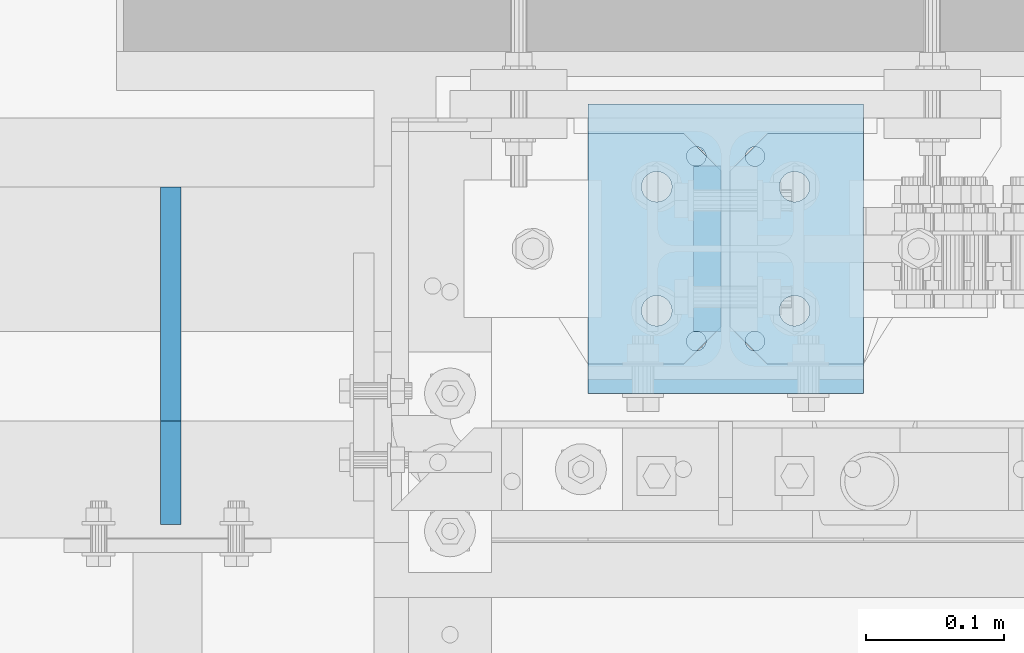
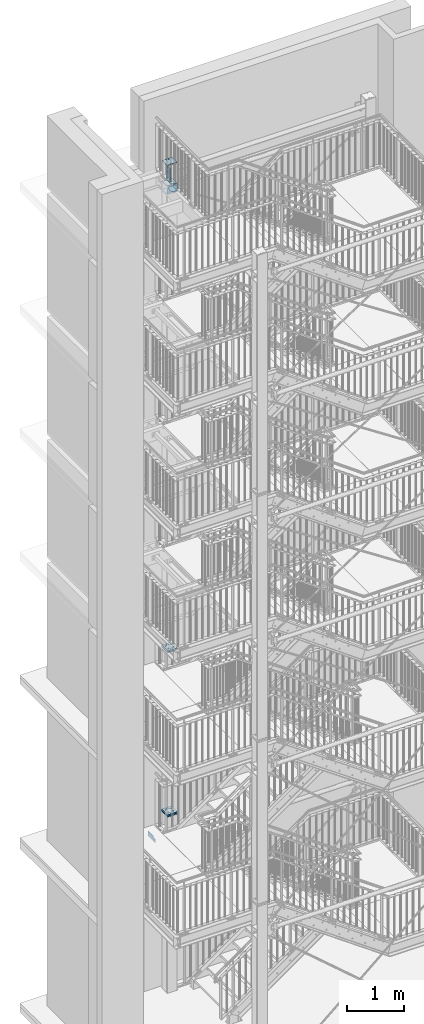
# One storey, part 189 of 825: 12 plates, 63 openings.
"""IFC2X3 building model written with IfcOpenShell, lengths in millimetres."""

from ifc_helpers import new_model, entity, si_unit, converted_unit, point, frame, frame_2d, origin, origin_with_axes, origin_2d_with_axis, place, context, project, spatial, polyline, circle_curve, line_curve, trimmed, segment, composite_curve, circle, outline, extrude, material, layer, layer_set, element, save


model = new_model("IFC2X3")

# Units and contexts
model_context = context("Model", 3, precision=1e-09, world=origin_with_axes())
ifc_project = project(units=[si_unit("LENGTHUNIT", "METRE", prefix="MILLI"), si_unit("AREAUNIT", "SQUARE_METRE"), si_unit("VOLUMEUNIT", "CUBIC_METRE"), converted_unit("PLANEANGLEUNIT", "DEGREE", entity("IfcPlaneAngleMeasure", 0.01745329), si_unit("PLANEANGLEUNIT", "RADIAN"), dimensions=[0, 0, 0, 0, 0, 0, 0])], contexts=[model_context])

# Site, building, storey
site_placement = place(None, origin_with_axes())
site = spatial("IfcSite", under=ifc_project, at=site_placement, Name="Cnopf'sche Kinderklinik", CompositionType="ELEMENT")
building_placement = place(site_placement, origin_with_axes())
building = spatial("IfcBuilding", under=site, at=building_placement, Name="Struktur 1", CompositionType="ELEMENT")
storey_placement = place(building_placement, origin_with_axes())
storey = spatial("IfcBuildingStorey", under=building, at=storey_placement, Name="Default Storey", CompositionType="ELEMENT", Elevation=0.0)

# Plate, opening
ifc_material = material(Name="S235JR")
ifc_layer_1 = layer(ifc_material, 15.0)
ifc_layer_set_1 = layer_set([ifc_layer_1], Name="S235JR")
plate_1_placement = place(None, frame((4461.713402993, 7439.236971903, 3797.0), z_axis=(-1.0, 0.0, 0.0), x_axis=(0.0, -1.0, 0.0)))
plate_1 = element("IfcPlate", 1, at=plate_1_placement, inside=storey, material=ifc_layer_set_1, Name="-", ObjectType="-", context=model_context, shape_type="SweptSolid", body=[
    extrude(outline(polyline([(-122.5, -50.0), (122.5, -50.0), (122.5, 50.0), (-122.5, 50.0), (-122.5, -50.0)])), origin_with_axes(), (0.0, 0.0, 1.0), 15.0),
])
opening_1_placement = place(plate_1_placement, frame((0.0, 0.0, -0.1), z_axis=(0.0, 0.0, 1.0), x_axis=(1.0, 0.0, 0.0)))
element("IfcOpeningElement", 2, at=opening_1_placement, cuts=plate_1, ObjectType="Opening", context=model_context, shape_type="SweptSolid", body=[
    extrude(outline(composite_curve([segment(trimmed(circle_curve(frame_2d((57.499, 29.999), x_axis=(1.0, 0.0)), 10.0), [point((47.499, 29.999))], [point((57.499, 19.999))], True, "CARTESIAN"), True, "CONTINUOUS"), segment(trimmed(line_curve((57.499, 19.999), (1.0, 0.0), 93.063804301), [point((57.499, 19.999))], [point((150.562804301, 19.999))], True, "CARTESIAN"), True, "CONTINUOUS"), segment(trimmed(circle_curve(frame_2d((150.562804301, 29.999), x_axis=(1.0, 0.0)), 10.0), [point((150.562804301, 19.999))], [point((160.562804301, 29.999))], True, "CARTESIAN"), True, "CONTINUOUS"), segment(trimmed(line_curve((160.562804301, 29.999), (0.0, 1.0), 40.184858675), [point((160.562804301, 29.999))], [point((160.562804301, 70.183858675))], True, "CARTESIAN"), True, "CONTINUOUS"), segment(trimmed(circle_curve(frame_2d((150.562804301, 70.183858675), x_axis=(1.0, 0.0)), 10.0), [point((160.562804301, 70.183858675))], [point((150.562804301, 80.183858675))], True, "CARTESIAN"), True, "CONTINUOUS"), segment(trimmed(line_curve((150.562804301, 80.183858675), (-1.0, 0.0), 93.063804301), [point((150.562804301, 80.183858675))], [point((57.499, 80.183858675))], True, "CARTESIAN"), True, "CONTINUOUS"), segment(trimmed(circle_curve(frame_2d((57.499, 70.183858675), x_axis=(1.0, 0.0)), 10.0), [point((57.499, 80.183858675))], [point((47.499, 70.183858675))], True, "CARTESIAN"), True, "CONTINUOUS"), segment(trimmed(line_curve((47.499, 70.183858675), (0.0, -1.0), 40.184858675), [point((47.499, 70.183858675))], [point((47.499, 29.999))], True, "CARTESIAN"), True, "CONTINUOUS")], self_intersect=False)), origin(), (0.0, 0.0, 1.0), 15.2),
])

# Plate, openings
ifc_layer_2 = layer(ifc_material, 25.0)
ifc_layer_set_2 = layer_set([ifc_layer_2], Name="S235JR")
plate_2_placement = place(None, frame((4856.713402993, 7516.736971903, 4150.0), z_axis=(0.0, 0.0, -1.0), x_axis=(0.0, 1.0, 0.0)))
plate_2 = element("IfcPlate", 3, at=plate_2_placement, inside=storey, material=ifc_layer_set_2, Name="Endplate#1", ObjectType="Endplate#1", context=model_context, shape_type="SweptSolid", body=[
    extrude(outline(polyline([(-105.0, -100.0), (105.0, -100.0), (105.0, 100.0), (-105.0, 100.0), (-105.0, -100.0)])), origin_with_axes(), (0.0, 0.0, 1.0), 25.0),
])
opening_2_placement = place(plate_2_placement, frame((67.0, 21.25, -0.5), z_axis=(0.0, 0.0, 1.0), x_axis=(1.0, 0.0, 0.0)))
element("IfcOpeningElement", 4, at=opening_2_placement, cuts=plate_2, ObjectType="Opening", context=model_context, shape_type="SweptSolid", body=[
    extrude(circle(Radius=7.001, at=origin_2d_with_axis()), origin(), (0.0, 0.0, 1.0), 26.0),
])
opening_3_placement = place(plate_2_placement, frame((-67.0, 21.25, -0.5), z_axis=(0.0, 0.0, 1.0), x_axis=(1.0, 0.0, 0.0)))
element("IfcOpeningElement", 5, at=opening_3_placement, cuts=plate_2, ObjectType="Opening", context=model_context, shape_type="SweptSolid", body=[
    extrude(circle(Radius=7.001, at=origin_2d_with_axis()), origin(), (0.0, 0.0, 1.0), 26.0),
])
opening_4_placement = place(plate_2_placement, frame((-67.0, -21.25, -0.5), z_axis=(0.0, 0.0, 1.0), x_axis=(1.0, 0.0, 0.0)))
element("IfcOpeningElement", 6, at=opening_4_placement, cuts=plate_2, ObjectType="Opening", context=model_context, shape_type="SweptSolid", body=[
    extrude(circle(Radius=7.001, at=origin_2d_with_axis()), origin(), (0.0, 0.0, 1.0), 26.0),
])
opening_5_placement = place(plate_2_placement, frame((67.0, -21.25, -0.5), z_axis=(0.0, 0.0, 1.0), x_axis=(1.0, 0.0, 0.0)))
element("IfcOpeningElement", 7, at=opening_5_placement, cuts=plate_2, ObjectType="Opening", context=model_context, shape_type="SweptSolid", body=[
    extrude(circle(Radius=7.001, at=origin_2d_with_axis()), origin(), (0.0, 0.0, 1.0), 26.0),
])
opening_6_placement = place(plate_2_placement, frame((45.0, 61.001, 25.5), z_axis=(0.0, 0.0, 1.0), x_axis=(1.0, 0.0, 0.0)))
element("IfcOpeningElement", 8, at=opening_6_placement, cuts=plate_2, ObjectType="Opening", context=model_context, shape_type="SweptSolid", body=[
    extrude(circle(Radius=11.001, at=frame_2d((0.0, -11.001), x_axis=(1.0, 0.0))), origin(), (0.0, 0.0, -1.0), 26.0),
])
opening_7_placement = place(plate_2_placement, frame((-45.0, 61.001, 25.5), z_axis=(0.0, 0.0, 1.0), x_axis=(1.0, 0.0, 0.0)))
element("IfcOpeningElement", 9, at=opening_7_placement, cuts=plate_2, ObjectType="Opening", context=model_context, shape_type="SweptSolid", body=[
    extrude(circle(Radius=11.001, at=frame_2d((0.0, -11.001), x_axis=(1.0, 0.0))), origin(), (0.0, 0.0, -1.0), 26.0),
])
opening_8_placement = place(plate_2_placement, frame((45.0, -38.999, 25.5), z_axis=(0.0, 0.0, 1.0), x_axis=(1.0, 0.0, 0.0)))
element("IfcOpeningElement", 10, at=opening_8_placement, cuts=plate_2, ObjectType="Opening", context=model_context, shape_type="SweptSolid", body=[
    extrude(circle(Radius=11.001, at=frame_2d((0.0, -11.001), x_axis=(1.0, 0.0))), origin(), (0.0, 0.0, -1.0), 26.0),
])
opening_9_placement = place(plate_2_placement, frame((-45.0, -38.999, 25.5), z_axis=(0.0, 0.0, 1.0), x_axis=(1.0, 0.0, 0.0)))
element("IfcOpeningElement", 11, at=opening_9_placement, cuts=plate_2, ObjectType="Opening", context=model_context, shape_type="SweptSolid", body=[
    extrude(circle(Radius=11.001, at=frame_2d((0.0, -11.001), x_axis=(1.0, 0.0))), origin(), (0.0, 0.0, -1.0), 26.0),
])

plate_3_placement = place(None, frame((4856.713402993, 7516.736971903, 4175.0), z_axis=(0.0, 0.0, -1.0), x_axis=(0.0, 1.0, 0.0)))
plate_3 = element("IfcPlate", 12, at=plate_3_placement, inside=storey, material=ifc_layer_set_2, Name="Endplate#2", ObjectType="Endplate#2", context=model_context, shape_type="SweptSolid", body=[
    extrude(outline(polyline([(-105.0, -100.0), (105.0, -100.0), (105.0, 100.0), (-105.0, 100.0), (-105.0, -100.0)])), origin_with_axes(), (0.0, 0.0, 1.0), 25.0),
])
opening_10_placement = place(plate_3_placement, frame((67.0, 21.25, 25.5), z_axis=(0.0, 0.0, -1.0), x_axis=(-1.0, 0.0, 0.0)))
element("IfcOpeningElement", 13, at=opening_10_placement, cuts=plate_3, ObjectType="Opening", context=model_context, shape_type="SweptSolid", body=[
    extrude(circle(Radius=7.001, at=origin_2d_with_axis()), origin(), (0.0, 0.0, 1.0), 26.0),
])
opening_11_placement = place(plate_3_placement, frame((-67.0, 21.25, 25.5), z_axis=(0.0, 0.0, -1.0), x_axis=(-1.0, 0.0, 0.0)))
element("IfcOpeningElement", 14, at=opening_11_placement, cuts=plate_3, ObjectType="Opening", context=model_context, shape_type="SweptSolid", body=[
    extrude(circle(Radius=7.001, at=origin_2d_with_axis()), origin(), (0.0, 0.0, 1.0), 26.0),
])
opening_12_placement = place(plate_3_placement, frame((-67.0, -21.25, 25.5), z_axis=(0.0, 0.0, -1.0), x_axis=(-1.0, 0.0, 0.0)))
element("IfcOpeningElement", 15, at=opening_12_placement, cuts=plate_3, ObjectType="Opening", context=model_context, shape_type="SweptSolid", body=[
    extrude(circle(Radius=7.001, at=origin_2d_with_axis()), origin(), (0.0, 0.0, 1.0), 26.0),
])
opening_13_placement = place(plate_3_placement, frame((67.0, -21.25, 25.5), z_axis=(0.0, 0.0, -1.0), x_axis=(-1.0, 0.0, 0.0)))
element("IfcOpeningElement", 16, at=opening_13_placement, cuts=plate_3, ObjectType="Opening", context=model_context, shape_type="SweptSolid", body=[
    extrude(circle(Radius=7.001, at=origin_2d_with_axis()), origin(), (0.0, 0.0, 1.0), 26.0),
])
opening_14_placement = place(plate_3_placement, frame((45.0, -38.999, 25.5), z_axis=(0.0, 0.0, 1.0), x_axis=(1.0, 0.0, 0.0)))
element("IfcOpeningElement", 17, at=opening_14_placement, cuts=plate_3, ObjectType="Opening", context=model_context, shape_type="SweptSolid", body=[
    extrude(circle(Radius=11.001, at=frame_2d((0.0, -11.001), x_axis=(1.0, 0.0))), origin(), (0.0, 0.0, -1.0), 26.0),
])
opening_15_placement = place(plate_3_placement, frame((-45.0, -38.999, 25.5), z_axis=(0.0, 0.0, 1.0), x_axis=(1.0, 0.0, 0.0)))
element("IfcOpeningElement", 18, at=opening_15_placement, cuts=plate_3, ObjectType="Opening", context=model_context, shape_type="SweptSolid", body=[
    extrude(circle(Radius=11.001, at=frame_2d((0.0, -11.001), x_axis=(1.0, 0.0))), origin(), (0.0, 0.0, -1.0), 26.0),
])
opening_16_placement = place(plate_3_placement, frame((45.0, 61.001, 25.5), z_axis=(0.0, 0.0, 1.0), x_axis=(1.0, 0.0, 0.0)))
element("IfcOpeningElement", 19, at=opening_16_placement, cuts=plate_3, ObjectType="Opening", context=model_context, shape_type="SweptSolid", body=[
    extrude(circle(Radius=11.001, at=frame_2d((0.0, -11.001), x_axis=(1.0, 0.0))), origin(), (0.0, 0.0, -1.0), 26.0),
])
opening_17_placement = place(plate_3_placement, frame((-45.0, 61.001, 25.5), z_axis=(0.0, 0.0, 1.0), x_axis=(1.0, 0.0, 0.0)))
element("IfcOpeningElement", 20, at=opening_17_placement, cuts=plate_3, ObjectType="Opening", context=model_context, shape_type="SweptSolid", body=[
    extrude(circle(Radius=11.001, at=frame_2d((0.0, -11.001), x_axis=(1.0, 0.0))), origin(), (0.0, 0.0, -1.0), 26.0),
])

plate_4_placement = place(None, frame((4856.713402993, 7516.736971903, 7650.0), z_axis=(0.0, 0.0, -1.0), x_axis=(0.0, 1.0, 0.0)))
plate_4 = element("IfcPlate", 21, at=plate_4_placement, inside=storey, material=ifc_layer_set_2, Name="Endplate#1", ObjectType="Endplate#1", context=model_context, shape_type="SweptSolid", body=[
    extrude(outline(polyline([(-105.0, -100.0), (105.0, -100.0), (105.0, 100.0), (-105.0, 100.0), (-105.0, -100.0)])), origin_with_axes(), (0.0, 0.0, 1.0), 25.0),
])
opening_18_placement = place(plate_4_placement, frame((67.0, 21.25, -0.5), z_axis=(0.0, 0.0, 1.0), x_axis=(1.0, 0.0, 0.0)))
element("IfcOpeningElement", 22, at=opening_18_placement, cuts=plate_4, ObjectType="Opening", context=model_context, shape_type="SweptSolid", body=[
    extrude(circle(Radius=7.001, at=origin_2d_with_axis()), origin(), (0.0, 0.0, 1.0), 26.0),
])
opening_19_placement = place(plate_4_placement, frame((-67.0, 21.25, -0.5), z_axis=(0.0, 0.0, 1.0), x_axis=(1.0, 0.0, 0.0)))
element("IfcOpeningElement", 23, at=opening_19_placement, cuts=plate_4, ObjectType="Opening", context=model_context, shape_type="SweptSolid", body=[
    extrude(circle(Radius=7.001, at=origin_2d_with_axis()), origin(), (0.0, 0.0, 1.0), 26.0),
])
opening_20_placement = place(plate_4_placement, frame((-67.0, -21.25, -0.5), z_axis=(0.0, 0.0, 1.0), x_axis=(1.0, 0.0, 0.0)))
element("IfcOpeningElement", 24, at=opening_20_placement, cuts=plate_4, ObjectType="Opening", context=model_context, shape_type="SweptSolid", body=[
    extrude(circle(Radius=7.001, at=origin_2d_with_axis()), origin(), (0.0, 0.0, 1.0), 26.0),
])
opening_21_placement = place(plate_4_placement, frame((67.0, -21.25, -0.5), z_axis=(0.0, 0.0, 1.0), x_axis=(1.0, 0.0, 0.0)))
element("IfcOpeningElement", 25, at=opening_21_placement, cuts=plate_4, ObjectType="Opening", context=model_context, shape_type="SweptSolid", body=[
    extrude(circle(Radius=7.001, at=origin_2d_with_axis()), origin(), (0.0, 0.0, 1.0), 26.0),
])
opening_22_placement = place(plate_4_placement, frame((45.0, -38.999, 25.5), z_axis=(0.0, 0.0, 1.0), x_axis=(1.0, 0.0, 0.0)))
element("IfcOpeningElement", 26, at=opening_22_placement, cuts=plate_4, ObjectType="Opening", context=model_context, shape_type="SweptSolid", body=[
    extrude(circle(Radius=11.001, at=frame_2d((0.0, -11.001), x_axis=(1.0, 0.0))), origin(), (0.0, 0.0, -1.0), 26.0),
])
opening_23_placement = place(plate_4_placement, frame((-45.0, -38.999, 25.5), z_axis=(0.0, 0.0, 1.0), x_axis=(1.0, 0.0, 0.0)))
element("IfcOpeningElement", 27, at=opening_23_placement, cuts=plate_4, ObjectType="Opening", context=model_context, shape_type="SweptSolid", body=[
    extrude(circle(Radius=11.001, at=frame_2d((0.0, -11.001), x_axis=(1.0, 0.0))), origin(), (0.0, 0.0, -1.0), 26.0),
])
opening_24_placement = place(plate_4_placement, frame((45.0, 61.001, 25.5), z_axis=(0.0, 0.0, 1.0), x_axis=(1.0, 0.0, 0.0)))
element("IfcOpeningElement", 28, at=opening_24_placement, cuts=plate_4, ObjectType="Opening", context=model_context, shape_type="SweptSolid", body=[
    extrude(circle(Radius=11.001, at=frame_2d((0.0, -11.001), x_axis=(1.0, 0.0))), origin(), (0.0, 0.0, -1.0), 26.0),
])
opening_25_placement = place(plate_4_placement, frame((-45.0, 61.001, 25.5), z_axis=(0.0, 0.0, 1.0), x_axis=(1.0, 0.0, 0.0)))
element("IfcOpeningElement", 29, at=opening_25_placement, cuts=plate_4, ObjectType="Opening", context=model_context, shape_type="SweptSolid", body=[
    extrude(circle(Radius=11.001, at=frame_2d((0.0, -11.001), x_axis=(1.0, 0.0))), origin(), (0.0, 0.0, -1.0), 26.0),
])

plate_5_placement = place(None, frame((4856.713402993, 7516.736971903, 7675.0), z_axis=(0.0, 0.0, -1.0), x_axis=(0.0, 1.0, 0.0)))
plate_5 = element("IfcPlate", 30, at=plate_5_placement, inside=storey, material=ifc_layer_set_2, Name="Endplate#2", ObjectType="Endplate#2", context=model_context, shape_type="SweptSolid", body=[
    extrude(outline(polyline([(-105.0, -100.0), (105.0, -100.0), (105.0, 100.0), (-105.0, 100.0), (-105.0, -100.0)])), origin_with_axes(), (0.0, 0.0, 1.0), 25.0),
])
opening_26_placement = place(plate_5_placement, frame((67.0, 21.25, 25.5), z_axis=(0.0, 0.0, -1.0), x_axis=(-1.0, 0.0, 0.0)))
element("IfcOpeningElement", 31, at=opening_26_placement, cuts=plate_5, ObjectType="Opening", context=model_context, shape_type="SweptSolid", body=[
    extrude(circle(Radius=7.001, at=origin_2d_with_axis()), origin(), (0.0, 0.0, 1.0), 26.0),
])
opening_27_placement = place(plate_5_placement, frame((-67.0, 21.25, 25.5), z_axis=(0.0, 0.0, -1.0), x_axis=(-1.0, 0.0, 0.0)))
element("IfcOpeningElement", 32, at=opening_27_placement, cuts=plate_5, ObjectType="Opening", context=model_context, shape_type="SweptSolid", body=[
    extrude(circle(Radius=7.001, at=origin_2d_with_axis()), origin(), (0.0, 0.0, 1.0), 26.0),
])
opening_28_placement = place(plate_5_placement, frame((-67.0, -21.25, 25.5), z_axis=(0.0, 0.0, -1.0), x_axis=(-1.0, 0.0, 0.0)))
element("IfcOpeningElement", 33, at=opening_28_placement, cuts=plate_5, ObjectType="Opening", context=model_context, shape_type="SweptSolid", body=[
    extrude(circle(Radius=7.001, at=origin_2d_with_axis()), origin(), (0.0, 0.0, 1.0), 26.0),
])
opening_29_placement = place(plate_5_placement, frame((67.0, -21.25, 25.5), z_axis=(0.0, 0.0, -1.0), x_axis=(-1.0, 0.0, 0.0)))
element("IfcOpeningElement", 34, at=opening_29_placement, cuts=plate_5, ObjectType="Opening", context=model_context, shape_type="SweptSolid", body=[
    extrude(circle(Radius=7.001, at=origin_2d_with_axis()), origin(), (0.0, 0.0, 1.0), 26.0),
])
opening_30_placement = place(plate_5_placement, frame((45.0, 61.001, 25.5), z_axis=(0.0, 0.0, 1.0), x_axis=(1.0, 0.0, 0.0)))
element("IfcOpeningElement", 35, at=opening_30_placement, cuts=plate_5, ObjectType="Opening", context=model_context, shape_type="SweptSolid", body=[
    extrude(circle(Radius=11.001, at=frame_2d((0.0, -11.001), x_axis=(1.0, 0.0))), origin(), (0.0, 0.0, -1.0), 26.0),
])
opening_31_placement = place(plate_5_placement, frame((-45.0, 61.001, 25.5), z_axis=(0.0, 0.0, 1.0), x_axis=(1.0, 0.0, 0.0)))
element("IfcOpeningElement", 36, at=opening_31_placement, cuts=plate_5, ObjectType="Opening", context=model_context, shape_type="SweptSolid", body=[
    extrude(circle(Radius=11.001, at=frame_2d((0.0, -11.001), x_axis=(1.0, 0.0))), origin(), (0.0, 0.0, -1.0), 26.0),
])
opening_32_placement = place(plate_5_placement, frame((45.0, -38.999, 25.5), z_axis=(0.0, 0.0, 1.0), x_axis=(1.0, 0.0, 0.0)))
element("IfcOpeningElement", 37, at=opening_32_placement, cuts=plate_5, ObjectType="Opening", context=model_context, shape_type="SweptSolid", body=[
    extrude(circle(Radius=11.001, at=frame_2d((0.0, -11.001), x_axis=(1.0, 0.0))), origin(), (0.0, 0.0, -1.0), 26.0),
])
opening_33_placement = place(plate_5_placement, frame((-45.0, -38.999, 25.5), z_axis=(0.0, 0.0, 1.0), x_axis=(1.0, 0.0, 0.0)))
element("IfcOpeningElement", 38, at=opening_33_placement, cuts=plate_5, ObjectType="Opening", context=model_context, shape_type="SweptSolid", body=[
    extrude(circle(Radius=11.001, at=frame_2d((0.0, -11.001), x_axis=(1.0, 0.0))), origin(), (0.0, 0.0, -1.0), 26.0),
])

ifc_layer_3 = layer(ifc_material, 10.0)
ifc_layer_set_3 = layer_set([ifc_layer_3], Name="S235JR")
plate_6_placement = place(None, frame((4856.713402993, 7411.736971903, 17498.999999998), z_axis=(0.0, 1.0, 0.0), x_axis=(0.0, 0.0, -1.0)))
plate_6 = element("IfcPlate", 39, at=plate_6_placement, inside=storey, material=ifc_layer_set_3, Name="Endplate", ObjectType="Endplate", context=model_context, shape_type="SweptSolid", body=[
    extrude(outline(polyline([(-90.0, -100.0), (90.0, -100.0), (90.0, 100.0), (-90.0, 100.0), (-90.0, -100.0)])), origin_with_axes(), (0.0, 0.0, 1.0), 10.0),
])
opening_34_placement = place(plate_6_placement, frame((-67.0, 21.25, 10.5), z_axis=(0.0, 0.0, -1.0), x_axis=(-1.0, 0.0, 0.0)))
element("IfcOpeningElement", 40, at=opening_34_placement, cuts=plate_6, ObjectType="Opening", context=model_context, shape_type="SweptSolid", body=[
    extrude(circle(Radius=6.001, at=origin_2d_with_axis()), origin(), (0.0, 0.0, 1.0), 11.0),
])
opening_35_placement = place(plate_6_placement, frame((67.0, 21.25, 10.5), z_axis=(0.0, 0.0, -1.0), x_axis=(-1.0, 0.0, 0.0)))
element("IfcOpeningElement", 41, at=opening_35_placement, cuts=plate_6, ObjectType="Opening", context=model_context, shape_type="SweptSolid", body=[
    extrude(circle(Radius=6.001, at=origin_2d_with_axis()), origin(), (0.0, 0.0, 1.0), 11.0),
])
opening_36_placement = place(plate_6_placement, frame((67.0, -21.25, 10.5), z_axis=(0.0, 0.0, -1.0), x_axis=(-1.0, 0.0, 0.0)))
element("IfcOpeningElement", 42, at=opening_36_placement, cuts=plate_6, ObjectType="Opening", context=model_context, shape_type="SweptSolid", body=[
    extrude(circle(Radius=6.001, at=origin_2d_with_axis()), origin(), (0.0, 0.0, 1.0), 11.0),
])
opening_37_placement = place(plate_6_placement, frame((-67.0, -21.25, 10.5), z_axis=(0.0, 0.0, -1.0), x_axis=(-1.0, 0.0, 0.0)))
element("IfcOpeningElement", 43, at=opening_37_placement, cuts=plate_6, ObjectType="Opening", context=model_context, shape_type="SweptSolid", body=[
    extrude(circle(Radius=6.001, at=origin_2d_with_axis()), origin(), (0.0, 0.0, 1.0), 11.0),
])
opening_38_placement = place(plate_6_placement, frame((-45.0, -60.0, 10.5), z_axis=(0.0, 0.0, -1.0), x_axis=(0.0, -1.0, 0.0)))
element("IfcOpeningElement", 44, at=opening_38_placement, cuts=plate_6, ObjectType="Opening", context=model_context, shape_type="SweptSolid", body=[
    extrude(circle(Radius=9.001, at=origin_2d_with_axis()), origin(), (0.0, 0.0, 1.0), 11.0),
])
opening_39_placement = place(plate_6_placement, frame((45.0, 60.0, 10.5), z_axis=(0.0, 0.0, -1.0), x_axis=(0.0, 1.0, 0.0)))
element("IfcOpeningElement", 45, at=opening_39_placement, cuts=plate_6, ObjectType="Opening", context=model_context, shape_type="SweptSolid", body=[
    extrude(circle(Radius=9.001, at=origin_2d_with_axis()), origin(), (0.0, 0.0, 1.0), 11.0),
])
opening_40_placement = place(plate_6_placement, frame((45.0, -60.0, 10.5), z_axis=(0.0, 0.0, -1.0), x_axis=(0.0, -1.0, 0.0)))
element("IfcOpeningElement", 46, at=opening_40_placement, cuts=plate_6, ObjectType="Opening", context=model_context, shape_type="SweptSolid", body=[
    extrude(circle(Radius=9.001, at=origin_2d_with_axis()), origin(), (0.0, 0.0, 1.0), 11.0),
])
opening_41_placement = place(plate_6_placement, frame((-45.0, 60.0, 10.5), z_axis=(0.0, 0.0, -1.0), x_axis=(0.0, 1.0, 0.0)))
element("IfcOpeningElement", 47, at=opening_41_placement, cuts=plate_6, ObjectType="Opening", context=model_context, shape_type="SweptSolid", body=[
    extrude(circle(Radius=9.001, at=origin_2d_with_axis()), origin(), (0.0, 0.0, 1.0), 11.0),
])

plate_7_placement = place(None, frame((4859.963402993, 7433.236971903, 17573.999999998), z_axis=(0.0, 0.0, 1.0), x_axis=(1.0, 0.0, 0.0)))
plate_7 = element("IfcPlate", 48, at=plate_7_placement, inside=storey, material=ifc_layer_set_3, Name="Stiffener#1", ObjectType="Stiffener#1", context=model_context, shape_type="SweptSolid", body=[
    extrude(outline(polyline([(0.0, 0.0), (96.75, 0.0), (96.75, 167.0), (0.0, 167.0), (0.0, 0.0)])), origin_with_axes(), (0.0, 0.0, 1.0), 10.0),
])
opening_42_placement = place(plate_7_placement, frame((0.0, 0.0, -0.01), z_axis=(0.0, 0.0, 1.0), x_axis=(1.0, 0.0, 0.0)))
element("IfcOpeningElement", 49, at=opening_42_placement, cuts=plate_7, ObjectType="Opening", context=model_context, shape_type="SweptSolid", body=[
    extrude(outline(polyline([(0.0, 167.0), (0.0, 140.0), (27.0, 167.0), (0.0, 167.0)])), origin(), (0.0, 0.0, 1.0), 10.02),
])
opening_43_placement = place(plate_7_placement, frame((0.0, 0.0, -0.01), z_axis=(0.0, 0.0, 1.0), x_axis=(1.0, 0.0, 0.0)))
element("IfcOpeningElement", 50, at=opening_43_placement, cuts=plate_7, ObjectType="Opening", context=model_context, shape_type="SweptSolid", body=[
    extrude(outline(polyline([(0.0, 0.0), (27.0, 0.0), (0.0, 27.0), (0.0, 0.0)])), origin(), (0.0, 0.0, 1.0), 10.02),
])

plate_8_placement = place(None, frame((4756.713402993, 7433.236971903, 17573.999999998), z_axis=(0.0, 0.0, 1.0), x_axis=(1.0, 0.0, 0.0)))
plate_8 = element("IfcPlate", 51, at=plate_8_placement, inside=storey, material=ifc_layer_set_3, Name="Stiffener#2", ObjectType="Stiffener#2", context=model_context, shape_type="SweptSolid", body=[
    extrude(outline(polyline([(0.0, 0.0), (96.75, 0.0), (96.75, 167.0), (0.0, 167.0), (0.0, 0.0)])), origin_with_axes(), (0.0, 0.0, 1.0), 10.0),
])
opening_44_placement = place(plate_8_placement, frame((0.0, 0.0, -0.01), z_axis=(0.0, 0.0, 1.0), x_axis=(1.0, 0.0, 0.0)))
element("IfcOpeningElement", 52, at=opening_44_placement, cuts=plate_8, ObjectType="Opening", context=model_context, shape_type="SweptSolid", body=[
    extrude(outline(polyline([(96.75, 167.0), (69.75, 167.0), (96.75, 140.0), (96.75, 167.0)])), origin(), (0.0, 0.0, 1.0), 10.02),
])
opening_45_placement = place(plate_8_placement, frame((0.0, 0.0, -0.01), z_axis=(0.0, 0.0, 1.0), x_axis=(1.0, 0.0, 0.0)))
element("IfcOpeningElement", 53, at=opening_45_placement, cuts=plate_8, ObjectType="Opening", context=model_context, shape_type="SweptSolid", body=[
    extrude(outline(polyline([(96.75, 0.0), (96.75, 27.0), (69.75, 0.0), (96.75, 0.0)])), origin(), (0.0, 0.0, 1.0), 10.02),
])

plate_9_placement = place(None, frame((4956.713402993, 7433.236971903, 17413.999999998), z_axis=(0.0, 0.0, -1.0), x_axis=(-1.0, 0.0, 0.0)))
plate_9 = element("IfcPlate", 54, at=plate_9_placement, inside=storey, material=ifc_layer_set_3, Name="Stiffener#3", ObjectType="Stiffener#3", context=model_context, shape_type="SweptSolid", body=[
    extrude(outline(polyline([(0.0, 0.0), (96.75, 0.0), (96.75, 167.0), (0.0, 167.0), (0.0, 0.0)])), origin_with_axes(), (0.0, 0.0, 1.0), 10.0),
])
opening_46_placement = place(plate_9_placement, frame((0.0, 0.0, -0.01), z_axis=(0.0, 0.0, 1.0), x_axis=(1.0, 0.0, 0.0)))
element("IfcOpeningElement", 55, at=opening_46_placement, cuts=plate_9, ObjectType="Opening", context=model_context, shape_type="SweptSolid", body=[
    extrude(outline(polyline([(96.75, 167.0), (69.75, 167.0), (96.75, 140.0), (96.75, 167.0)])), origin(), (0.0, 0.0, 1.0), 10.02),
])
opening_47_placement = place(plate_9_placement, frame((0.0, 0.0, -0.01), z_axis=(0.0, 0.0, 1.0), x_axis=(1.0, 0.0, 0.0)))
element("IfcOpeningElement", 56, at=opening_47_placement, cuts=plate_9, ObjectType="Opening", context=model_context, shape_type="SweptSolid", body=[
    extrude(outline(polyline([(96.75, 0.0), (96.75, 27.0), (69.75, 0.0), (96.75, 0.0)])), origin(), (0.0, 0.0, 1.0), 10.02),
])

plate_10_placement = place(None, frame((4853.463402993, 7433.236971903, 17413.999999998), z_axis=(0.0, 0.0, -1.0), x_axis=(-1.0, 0.0, 0.0)))
plate_10 = element("IfcPlate", 57, at=plate_10_placement, inside=storey, material=ifc_layer_set_3, Name="Stiffener#4", ObjectType="Stiffener#4", context=model_context, shape_type="SweptSolid", body=[
    extrude(outline(polyline([(0.0, 0.0), (96.75, 0.0), (96.75, 167.0), (0.0, 167.0), (0.0, 0.0)])), origin_with_axes(), (0.0, 0.0, 1.0), 10.0),
])
opening_48_placement = place(plate_10_placement, frame((0.0, 0.0, -0.01), z_axis=(0.0, 0.0, 1.0), x_axis=(1.0, 0.0, 0.0)))
element("IfcOpeningElement", 58, at=opening_48_placement, cuts=plate_10, ObjectType="Opening", context=model_context, shape_type="SweptSolid", body=[
    extrude(outline(polyline([(0.0, 167.0), (0.0, 140.0), (27.0, 167.0), (0.0, 167.0)])), origin(), (0.0, 0.0, 1.0), 10.02),
])
opening_49_placement = place(plate_10_placement, frame((0.0, 0.0, -0.01), z_axis=(0.0, 0.0, 1.0), x_axis=(1.0, 0.0, 0.0)))
element("IfcOpeningElement", 59, at=opening_49_placement, cuts=plate_10, ObjectType="Opening", context=model_context, shape_type="SweptSolid", body=[
    extrude(outline(polyline([(0.0, 0.0), (27.0, 0.0), (0.0, 27.0), (0.0, 0.0)])), origin(), (0.0, 0.0, 1.0), 10.02),
])

ifc_layer_4 = layer(ifc_material, 20.0)
ifc_layer_set_4 = layer_set([ifc_layer_4], Name="S235JR")
plate_11_placement = place(None, frame((4833.463402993, 7516.736971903, 17753.999999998), z_axis=(1.0, 0.0, 0.0), x_axis=(0.0, 0.0, -1.0)))
plate_11 = element("IfcPlate", 60, at=plate_11_placement, inside=storey, material=ifc_layer_set_4, Name="Endplate", ObjectType="Endplate", context=model_context, shape_type="SweptSolid", body=[
    extrude(outline(polyline([(-150.0, -60.0), (150.0, -60.0), (150.0, 60.0), (-150.0, 60.0), (-150.0, -60.0)])), origin_with_axes(), (0.0, 0.0, 1.0), 20.0),
])
opening_50_placement = place(plate_11_placement, frame((-55.2, 18.1, 20.5), z_axis=(0.0, 0.0, -1.0), x_axis=(-1.0, 0.0, 0.0)))
element("IfcOpeningElement", 61, at=opening_50_placement, cuts=plate_11, ObjectType="Opening", context=model_context, shape_type="SweptSolid", body=[
    extrude(circle(Radius=6.001, at=origin_2d_with_axis()), origin(), (0.0, 0.0, 1.0), 21.0),
])
opening_51_placement = place(plate_11_placement, frame((135.2, 18.1, 20.5), z_axis=(0.0, 0.0, -1.0), x_axis=(-1.0, 0.0, 0.0)))
element("IfcOpeningElement", 62, at=opening_51_placement, cuts=plate_11, ObjectType="Opening", context=model_context, shape_type="SweptSolid", body=[
    extrude(circle(Radius=6.001, at=origin_2d_with_axis()), origin(), (0.0, 0.0, 1.0), 21.0),
])
opening_52_placement = place(plate_11_placement, frame((135.2, -18.1, 20.5), z_axis=(0.0, 0.0, -1.0), x_axis=(-1.0, 0.0, 0.0)))
element("IfcOpeningElement", 63, at=opening_52_placement, cuts=plate_11, ObjectType="Opening", context=model_context, shape_type="SweptSolid", body=[
    extrude(circle(Radius=6.001, at=origin_2d_with_axis()), origin(), (0.0, 0.0, 1.0), 21.0),
])
opening_53_placement = place(plate_11_placement, frame((-55.2, -18.1, 20.5), z_axis=(0.0, 0.0, -1.0), x_axis=(-1.0, 0.0, 0.0)))
element("IfcOpeningElement", 64, at=opening_53_placement, cuts=plate_11, ObjectType="Opening", context=model_context, shape_type="SweptSolid", body=[
    extrude(circle(Radius=6.001, at=origin_2d_with_axis()), origin(), (0.0, 0.0, 1.0), 21.0),
])
opening_54_placement = place(plate_11_placement, frame((100.0, -35.0, 20.5), z_axis=(0.0, 0.0, -1.0), x_axis=(0.0, -1.0, 0.0)))
element("IfcOpeningElement", 65, at=opening_54_placement, cuts=plate_11, ObjectType="Opening", context=model_context, shape_type="SweptSolid", body=[
    extrude(circle(Radius=9.001, at=origin_2d_with_axis()), origin(), (0.0, 0.0, 1.0), 21.0),
])
opening_55_placement = place(plate_11_placement, frame((-120.0, -35.0, 20.5), z_axis=(0.0, 0.0, -1.0), x_axis=(0.0, -1.0, 0.0)))
element("IfcOpeningElement", 66, at=opening_55_placement, cuts=plate_11, ObjectType="Opening", context=model_context, shape_type="SweptSolid", body=[
    extrude(circle(Radius=9.001, at=origin_2d_with_axis()), origin(), (0.0, 0.0, 1.0), 21.0),
])
opening_56_placement = place(plate_11_placement, frame((-20.0, 35.0, 20.5), z_axis=(0.0, 0.0, -1.0), x_axis=(0.0, 1.0, 0.0)))
element("IfcOpeningElement", 67, at=opening_56_placement, cuts=plate_11, ObjectType="Opening", context=model_context, shape_type="SweptSolid", body=[
    extrude(circle(Radius=9.001, at=origin_2d_with_axis()), origin(), (0.0, 0.0, 1.0), 21.0),
])
opening_57_placement = place(plate_11_placement, frame((100.0, 35.0, 20.5), z_axis=(0.0, 0.0, -1.0), x_axis=(0.0, 1.0, 0.0)))
element("IfcOpeningElement", 68, at=opening_57_placement, cuts=plate_11, ObjectType="Opening", context=model_context, shape_type="SweptSolid", body=[
    extrude(circle(Radius=9.001, at=origin_2d_with_axis()), origin(), (0.0, 0.0, 1.0), 21.0),
])
opening_58_placement = place(plate_11_placement, frame((-120.0, 35.0, 20.5), z_axis=(0.0, 0.0, -1.0), x_axis=(0.0, 1.0, 0.0)))
element("IfcOpeningElement", 69, at=opening_58_placement, cuts=plate_11, ObjectType="Opening", context=model_context, shape_type="SweptSolid", body=[
    extrude(circle(Radius=9.001, at=origin_2d_with_axis()), origin(), (0.0, 0.0, 1.0), 21.0),
])
opening_59_placement = place(plate_11_placement, frame((-20.0, -35.0, 20.5), z_axis=(0.0, 0.0, -1.0), x_axis=(0.0, -1.0, 0.0)))
element("IfcOpeningElement", 70, at=opening_59_placement, cuts=plate_11, ObjectType="Opening", context=model_context, shape_type="SweptSolid", body=[
    extrude(circle(Radius=9.001, at=origin_2d_with_axis()), origin(), (0.0, 0.0, 1.0), 21.0),
])

plate_12_placement = place(None, frame((4856.713402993, 7516.736971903, 18013.999999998), z_axis=(0.0, 0.0, 1.0), x_axis=(1.0, 0.0, 0.0)))
plate_12 = element("IfcPlate", 71, at=plate_12_placement, inside=storey, material=ifc_layer_set_3, Name="-", ObjectType="-", context=model_context, shape_type="SweptSolid", body=[
    extrude(outline(polyline([(-100.0, -90.0), (100.0, -90.0), (100.0, 90.0), (-100.0, 90.0), (-100.0, -90.0)])), origin_with_axes(), (0.0, 0.0, 1.0), 10.0),
])
opening_60_placement = place(plate_12_placement, frame((21.25, 67.0, 10.5), z_axis=(0.0, 0.0, -1.0), x_axis=(0.0, 1.0, 0.0)))
element("IfcOpeningElement", 72, at=opening_60_placement, cuts=plate_12, ObjectType="Opening", context=model_context, shape_type="SweptSolid", body=[
    extrude(circle(Radius=6.001, at=origin_2d_with_axis()), origin(), (0.0, 0.0, 1.0), 11.0),
])
opening_61_placement = place(plate_12_placement, frame((21.25, -67.0, 10.5), z_axis=(0.0, 0.0, -1.0), x_axis=(0.0, 1.0, 0.0)))
element("IfcOpeningElement", 73, at=opening_61_placement, cuts=plate_12, ObjectType="Opening", context=model_context, shape_type="SweptSolid", body=[
    extrude(circle(Radius=6.001, at=origin_2d_with_axis()), origin(), (0.0, 0.0, 1.0), 11.0),
])
opening_62_placement = place(plate_12_placement, frame((-21.25, -67.0, 10.5), z_axis=(0.0, 0.0, -1.0), x_axis=(0.0, 1.0, 0.0)))
element("IfcOpeningElement", 74, at=opening_62_placement, cuts=plate_12, ObjectType="Opening", context=model_context, shape_type="SweptSolid", body=[
    extrude(circle(Radius=6.001, at=origin_2d_with_axis()), origin(), (0.0, 0.0, 1.0), 11.0),
])
opening_63_placement = place(plate_12_placement, frame((-21.25, 67.0, 10.5), z_axis=(0.0, 0.0, -1.0), x_axis=(0.0, 1.0, 0.0)))
element("IfcOpeningElement", 75, at=opening_63_placement, cuts=plate_12, ObjectType="Opening", context=model_context, shape_type="SweptSolid", body=[
    extrude(circle(Radius=6.001, at=origin_2d_with_axis()), origin(), (0.0, 0.0, 1.0), 11.0),
])

save(model, "model.ifc")
